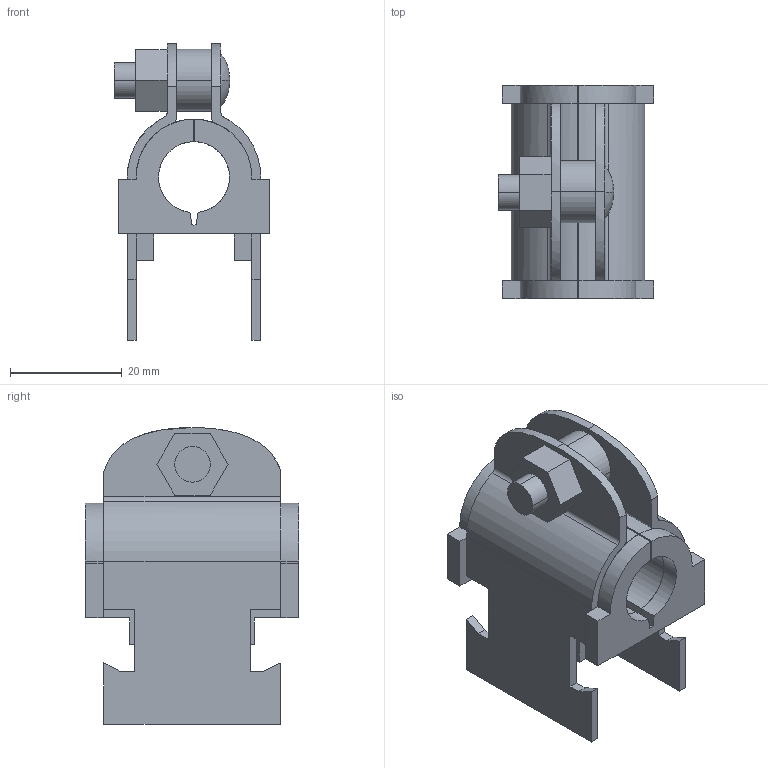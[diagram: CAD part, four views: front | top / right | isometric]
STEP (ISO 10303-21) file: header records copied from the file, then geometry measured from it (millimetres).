
FILE_DESCRIPTION(('TurboCAD Mac Pro'),'Build 980');
FILE_NAME('008T012.stp',' ',(''),(''),'ACIS Interop','IMSI','TurboCAD Mac Pro BY IMSI, INCORPORATED');
FILE_SCHEMA(('automotive_design'));
Length unit declared in the file: inch
Products named in the file (6): 1; 2; 3; 4; 5; 6
Bounding box: 27.74 x 38.1 x 53.08 mm (x, y, z)
Volume: 17379.9 mm3; surface area: 14495.2 mm2
Topology: 6 solids, 6 shells, 146 faces, 387 edges, 254 vertices
Faces by surface type: plane 100, bspline 46
Entity records: 8177 total; most frequent: CARTESIAN_POINT 1789, ORIENTED_EDGE 774, STYLED_ITEM 509, PRESENTATION_STYLE_ASSIGNMENT 509, COLOUR_RGB 509, DIRECTION 505, EDGE_CURVE 387, CURVE_STYLE 357
